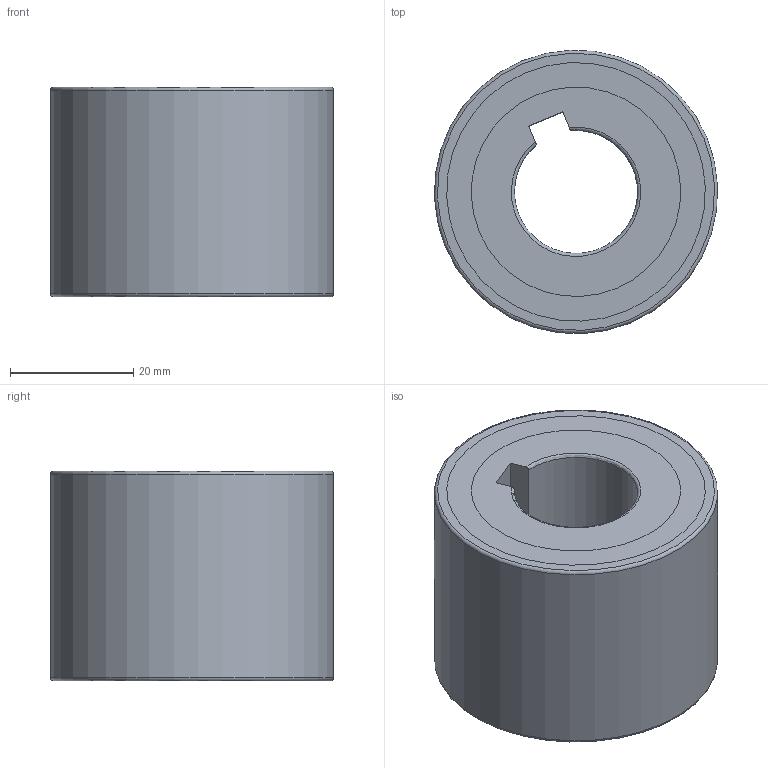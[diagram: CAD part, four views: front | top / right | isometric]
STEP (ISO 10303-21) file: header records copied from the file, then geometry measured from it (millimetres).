
FILE_DESCRIPTION(/* description */ (''),/* implementation_level */ '2;1');
FILE_NAME(/* name */ '300744 FND 442 Z.stp',/* time_stamp */ '2016-11-17T09:42:22+01:00',/* author */ (''),/* organization */ (''),/* preprocessor_version */ 'ST-DEVELOPER v15',/* originating_system */ 'SIEMENS PLM Software NX 8.5',/* authorisation */ '');
FILE_SCHEMA (('CONFIG_CONTROL_DESIGN'));
Length unit declared in the file: millimetre
Products named in the file (3): ATE0000080_01; ATE0000091_01; ATE0000092_01
Assembly tree (2 placements, depth 2):
  ATE0000092_01
    ATE0000091_01
    ATE0000080_01
Bounding box: 45.96 x 45.96 x 34 mm (x, y, z)
Volume: 39144.7 mm3; surface area: 27020.8 mm2
Topology: 5 solids, 5 shells, 79 faces, 173 edges, 114 vertices
Faces by surface type: plane 49, cylinder 24, torus 6
Full cylindrical faces by diameter (mm): 34 x5, 38 x1, 40 x1, 41 x2, 42 x5, 46 x1
Entity records: 2411 total; most frequent: CARTESIAN_POINT 411, DIRECTION 374, ORIENTED_EDGE 292, AXIS2_PLACEMENT_3D 150, EDGE_CURVE 146, EDGE_LOOP 120, VERTEX_POINT 108, ADVANCED_FACE 79
